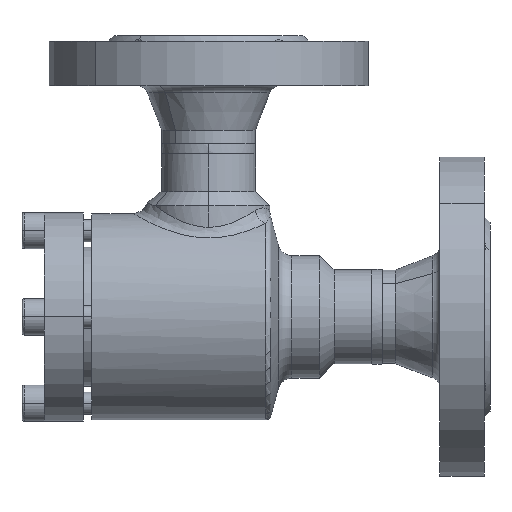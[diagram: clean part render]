
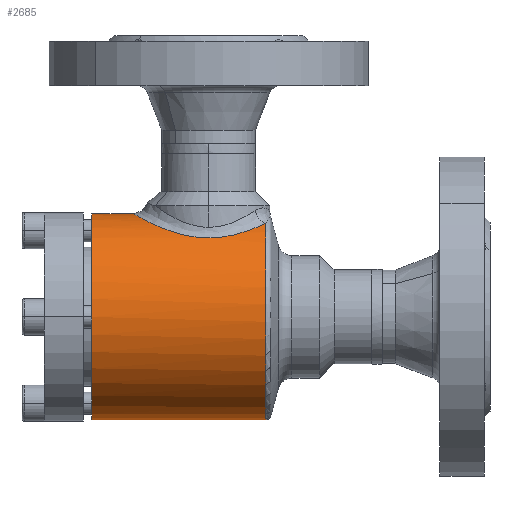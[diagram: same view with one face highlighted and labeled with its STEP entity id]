
A CAD part, left-side view. The second image highlights one B-rep face of the part: STEP entity #2685.
In plain terms, the highlighted cylindrical face has radius 37 mm (diameter 74 mm), a partial arc.
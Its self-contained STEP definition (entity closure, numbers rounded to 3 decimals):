
#1002 = ORIENTED_EDGE ( 'NONE', *, *, #14050, .F. ) ;
#1494 = ORIENTED_EDGE ( 'NONE', *, *, #4251, .T. ) ;
#2566 = EDGE_LOOP ( 'NONE', ( #15647, #8789, #14087, #1494, #1002 ) ) ;
#2685 = ADVANCED_FACE ( 'NONE', ( #8812 ), #8813, .T. ) ;
#4251 = EDGE_CURVE ( 'NONE', #8633, #14127, #13297, .T. ) ;
#7266 = CARTESIAN_POINT ( 'NONE',  ( -15.535, -62.446, 33.581 ) ) ;
#7413 = CIRCLE ( 'NONE', #7414, 37. ) ;
#7414 = AXIS2_PLACEMENT_3D ( 'NONE', #7415, #7416, #7417 ) ;
#7415 = CARTESIAN_POINT ( 'NONE',  ( 0., -62.446, 0. ) ) ;
#7416 = DIRECTION ( 'NONE',  ( 0., 1., 0. ) ) ;
#7417 = DIRECTION ( 'NONE',  ( 0., 0., -1. ) ) ;
#7440 = VERTEX_POINT ( 'NONE', #9115 ) ;
#8027 = CARTESIAN_POINT ( 'NONE',  ( 0., 0., -37. ) ) ;
#8256 = LINE ( 'NONE', #8257, #8259 ) ;
#8257 = CARTESIAN_POINT ( 'NONE',  ( 0., -68., -37. ) ) ;
#8259 = VECTOR ( 'NONE', #8260, 1000. ) ;
#8260 = DIRECTION ( 'NONE',  ( 0., 1., 0. ) ) ;
#8633 = VERTEX_POINT ( 'NONE', #13205 ) ;
#8789 = ORIENTED_EDGE ( 'NONE', *, *, #14157, .T. ) ;
#8812 = FACE_OUTER_BOUND ( 'NONE', #2566, .T. ) ;
#8813 = CYLINDRICAL_SURFACE ( 'NONE', #8814, 37. ) ;
#8814 = AXIS2_PLACEMENT_3D ( 'NONE', #8815, #8816, #8817 ) ;
#8815 = CARTESIAN_POINT ( 'NONE',  ( 0., -68., 0. ) ) ;
#8816 = DIRECTION ( 'NONE',  ( 0., 1., 0. ) ) ;
#8817 = DIRECTION ( 'NONE',  ( 0., 0., 1. ) ) ;
#9115 = CARTESIAN_POINT ( 'NONE',  ( 0., -62.446, -37. ) ) ;
#13205 = CARTESIAN_POINT ( 'NONE',  ( 0., -15., 37. ) ) ;
#13297 = LINE ( 'NONE', #13298, #13299 ) ;
#13298 = CARTESIAN_POINT ( 'NONE',  ( 0., -68., 37. ) ) ;
#13299 = VECTOR ( 'NONE', #13300, 1000. ) ;
#13300 = DIRECTION ( 'NONE',  ( 0., 1., 0. ) ) ;
#14050 = EDGE_CURVE ( 'NONE', #14175, #14127, #15072, .T. ) ;
#14077 = EDGE_CURVE ( 'NONE', #14141, #8633, #15275, .T. ) ;
#14087 = ORIENTED_EDGE ( 'NONE', *, *, #14077, .T. ) ;
#14127 = VERTEX_POINT ( 'NONE', #16048 ) ;
#14141 = VERTEX_POINT ( 'NONE', #7266 ) ;
#14157 = EDGE_CURVE ( 'NONE', #7440, #14141, #7413, .T. ) ;
#14175 = VERTEX_POINT ( 'NONE', #8027 ) ;
#14202 = EDGE_CURVE ( 'NONE', #7440, #14175, #8256, .T. ) ;
#15072 = CIRCLE ( 'NONE', #15073, 37. ) ;
#15073 = AXIS2_PLACEMENT_3D ( 'NONE', #15074, #15075, #15076 ) ;
#15074 = CARTESIAN_POINT ( 'NONE',  ( 0., 0., 0. ) ) ;
#15075 = DIRECTION ( 'NONE',  ( 0., 1., 0. ) ) ;
#15076 = DIRECTION ( 'NONE',  ( 0., 0., 1. ) ) ;
#15275 = B_SPLINE_CURVE_WITH_KNOTS ( 'NONE', 3,
 ( #15276, #15277, #15278, #15279, #15280, #15281, #15283, #15284, #15285, #15286, #15287, #15288, #15289, #15290, #15291, #15292, #15293, #15294, #15295, #15296, #15297, #15298, #15301, #15302, #15303, #15304, #15305, #15306, #15307, #15308, #15309, #15310, #15311, #15312, #15313, #15314, #15315, #15316, #15319, #15320, #15321, #15322, #15323, #15324, #15325, #15326, #15327, #15328 ),
 .UNSPECIFIED., .F., .F.,
 ( 4, 2, 2, 2, 2, 2, 2, 2, 2, 2, 2, 2, 2, 2, 2, 2, 2, 2, 2, 2, 2, 2, 2, 4 ),
 ( 0., 0.004, 0.008, 0.01, 0.012, 0.016, 0.018, 0.02, 0.024, 0.026, 0.028, 0.03, 0.032, 0.036, 0.04, 0.042, 0.044, 0.048, 0.05, 0.052, 0.056, 0.058, 0.06, 0.064 ),
 .UNSPECIFIED. ) ;
#15276 = CARTESIAN_POINT ( 'NONE',  ( -15.535, -62.446, 33.581 ) ) ;
#15277 = CARTESIAN_POINT ( 'NONE',  ( -16.452, -61.548, 33.157 ) ) ;
#15278 = CARTESIAN_POINT ( 'NONE',  ( -17.286, -60.594, 32.725 ) ) ;
#15279 = CARTESIAN_POINT ( 'NONE',  ( -18.811, -58.577, 31.873 ) ) ;
#15280 = CARTESIAN_POINT ( 'NONE',  ( -19.502, -57.514, 31.452 ) ) ;
#15281 = CARTESIAN_POINT ( 'NONE',  ( -20.434, -55.835, 30.848 ) ) ;
#15283 = CARTESIAN_POINT ( 'NONE',  ( -20.728, -55.259, 30.65 ) ) ;
#15284 = CARTESIAN_POINT ( 'NONE',  ( -21.277, -54.088, 30.272 ) ) ;
#15285 = CARTESIAN_POINT ( 'NONE',  ( -21.531, -53.494, 30.092 ) ) ;
#15286 = CARTESIAN_POINT ( 'NONE',  ( -22.233, -51.685, 29.581 ) ) ;
#15287 = CARTESIAN_POINT ( 'NONE',  ( -22.624, -50.442, 29.28 ) ) ;
#15288 = CARTESIAN_POINT ( 'NONE',  ( -23.09, -48.518, 28.912 ) ) ;
#15289 = CARTESIAN_POINT ( 'NONE',  ( -23.225, -47.864, 28.803 ) ) ;
#15290 = CARTESIAN_POINT ( 'NONE',  ( -23.453, -46.548, 28.618 ) ) ;
#15291 = CARTESIAN_POINT ( 'NONE',  ( -23.545, -45.887, 28.542 ) ) ;
#15292 = CARTESIAN_POINT ( 'NONE',  ( -23.756, -43.897, 28.367 ) ) ;
#15293 = CARTESIAN_POINT ( 'NONE',  ( -23.81, -42.56, 28.321 ) ) ;
#15294 = CARTESIAN_POINT ( 'NONE',  ( -23.758, -40.538, 28.365 ) ) ;
#15295 = CARTESIAN_POINT ( 'NONE',  ( -23.718, -39.862, 28.398 ) ) ;
#15296 = CARTESIAN_POINT ( 'NONE',  ( -23.596, -38.528, 28.5 ) ) ;
#15297 = CARTESIAN_POINT ( 'NONE',  ( -23.513, -37.867, 28.569 ) ) ;
#15298 = CARTESIAN_POINT ( 'NONE',  ( -23.304, -36.555, 28.739 ) ) ;
#15301 = CARTESIAN_POINT ( 'NONE',  ( -23.179, -35.905, 28.84 ) ) ;
#15302 = CARTESIAN_POINT ( 'NONE',  ( -22.886, -34.615, 29.073 ) ) ;
#15303 = CARTESIAN_POINT ( 'NONE',  ( -22.718, -33.974, 29.205 ) ) ;
#15304 = CARTESIAN_POINT ( 'NONE',  ( -22.153, -32.08, 29.639 ) ) ;
#15305 = CARTESIAN_POINT ( 'NONE',  ( -21.7, -30.866, 29.975 ) ) ;
#15306 = CARTESIAN_POINT ( 'NONE',  ( -20.645, -28.526, 30.712 ) ) ;
#15307 = CARTESIAN_POINT ( 'NONE',  ( -20.043, -27.4, 31.112 ) ) ;
#15308 = CARTESIAN_POINT ( 'NONE',  ( -19.02, -25.773, 31.74 ) ) ;
#15309 = CARTESIAN_POINT ( 'NONE',  ( -18.66, -25.243, 31.953 ) ) ;
#15310 = CARTESIAN_POINT ( 'NONE',  ( -17.908, -24.217, 32.381 ) ) ;
#15311 = CARTESIAN_POINT ( 'NONE',  ( -17.515, -23.72, 32.595 ) ) ;
#15312 = CARTESIAN_POINT ( 'NONE',  ( -16.284, -22.274, 33.237 ) ) ;
#15313 = CARTESIAN_POINT ( 'NONE',  ( -15.395, -21.372, 33.662 ) ) ;
#15314 = CARTESIAN_POINT ( 'NONE',  ( -13.943, -20.115, 34.276 ) ) ;
#15315 = CARTESIAN_POINT ( 'NONE',  ( -13.437, -19.71, 34.478 ) ) ;
#15316 = CARTESIAN_POINT ( 'NONE',  ( -12.398, -18.947, 34.865 ) ) ;
#15319 = CARTESIAN_POINT ( 'NONE',  ( -11.864, -18.588, 35.051 ) ) ;
#15320 = CARTESIAN_POINT ( 'NONE',  ( -10.215, -17.575, 35.581 ) ) ;
#15321 = CARTESIAN_POINT ( 'NONE',  ( -9.054, -16.989, 35.897 ) ) ;
#15322 = CARTESIAN_POINT ( 'NONE',  ( -7.207, -16.258, 36.297 ) ) ;
#15323 = CARTESIAN_POINT ( 'NONE',  ( -6.575, -16.041, 36.417 ) ) ;
#15324 = CARTESIAN_POINT ( 'NONE',  ( -5.29, -15.666, 36.626 ) ) ;
#15325 = CARTESIAN_POINT ( 'NONE',  ( -4.64, -15.508, 36.714 ) ) ;
#15326 = CARTESIAN_POINT ( 'NONE',  ( -2.677, -15.129, 36.926 ) ) ;
#15327 = CARTESIAN_POINT ( 'NONE',  ( -1.349, -15., 37. ) ) ;
#15328 = CARTESIAN_POINT ( 'NONE',  ( 0., -15., 37. ) ) ;
#15647 = ORIENTED_EDGE ( 'NONE', *, *, #14202, .F. ) ;
#16048 = CARTESIAN_POINT ( 'NONE',  ( 0., 0., 37. ) ) ;
